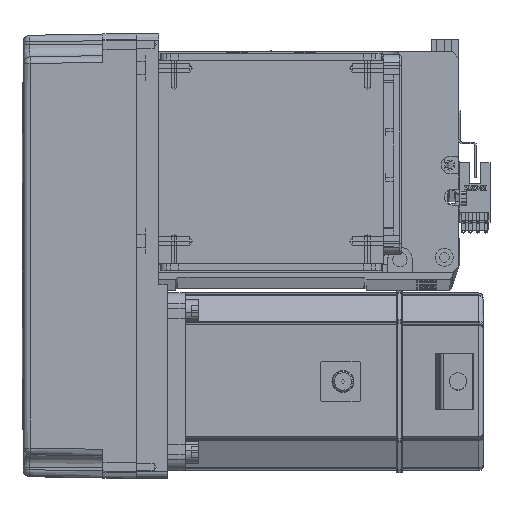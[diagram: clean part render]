
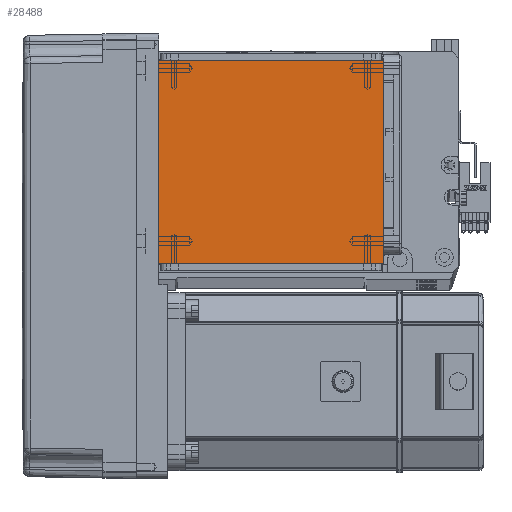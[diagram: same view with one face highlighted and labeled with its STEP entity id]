
A CAD part, top view. The second image highlights one B-rep face of the part: STEP entity #28488.
In plain terms, the highlighted planar face has unit normal (0, 0, 1).
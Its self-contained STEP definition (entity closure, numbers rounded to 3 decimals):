
#3096 = AXIS2_PLACEMENT_3D ( 'NONE', #4568, #64496, #45019 ) ;
#4309 = EDGE_LOOP ( 'NONE', ( #44390, #15728, #56952, #21111 ) ) ;
#4568 = CARTESIAN_POINT ( 'NONE',  ( 0., 0., 115. ) ) ;
#7316 = VECTOR ( 'NONE', #64485, 1000. ) ;
#8362 = CARTESIAN_POINT ( 'NONE',  ( -70.004, 111.5, 115. ) ) ;
#9211 = EDGE_CURVE ( 'NONE', #10909, #45519, #46246, .T. ) ;
#10909 = VERTEX_POINT ( 'NONE', #21856 ) ;
#14951 = LINE ( 'NONE', #46375, #49655 ) ;
#15728 = ORIENTED_EDGE ( 'NONE', *, *, #28179, .T. ) ;
#19142 = LINE ( 'NONE', #29362, #7316 ) ;
#20138 = VERTEX_POINT ( 'NONE', #28544 ) ;
#21111 = ORIENTED_EDGE ( 'NONE', *, *, #56836, .T. ) ;
#21856 = CARTESIAN_POINT ( 'NONE',  ( -50.5, 111.5, 115. ) ) ;
#22572 = CARTESIAN_POINT ( 'NONE',  ( 50.5, 122., 115. ) ) ;
#24212 = VERTEX_POINT ( 'NONE', #34240 ) ;
#27913 = DIRECTION ( 'NONE',  ( 1., 0., 0. ) ) ;
#28179 = EDGE_CURVE ( 'NONE', #10909, #24212, #14951, .T. ) ;
#28488 = ADVANCED_FACE ( 'NONE', ( #40939 ), #65147, .T. ) ;
#28544 = CARTESIAN_POINT ( 'NONE',  ( 50.5, 20., 115. ) ) ;
#29362 = CARTESIAN_POINT ( 'NONE',  ( -70.004, 20., 115. ) ) ;
#32910 = DIRECTION ( 'NONE',  ( 0., 1., 0. ) ) ;
#34240 = CARTESIAN_POINT ( 'NONE',  ( -50.5, 20., 115. ) ) ;
#36013 = DIRECTION ( 'NONE',  ( 0., -1., 0. ) ) ;
#38052 = EDGE_CURVE ( 'NONE', #20138, #24212, #19142, .T. ) ;
#40939 = FACE_OUTER_BOUND ( 'NONE', #4309, .T. ) ;
#44390 = ORIENTED_EDGE ( 'NONE', *, *, #9211, .F. ) ;
#45019 = DIRECTION ( 'NONE',  ( 1., 0., 0. ) ) ;
#45429 = VECTOR ( 'NONE', #32910, 1000. ) ;
#45519 = VERTEX_POINT ( 'NONE', #45812 ) ;
#45812 = CARTESIAN_POINT ( 'NONE',  ( 50.5, 111.5, 115. ) ) ;
#46246 = LINE ( 'NONE', #8362, #59422 ) ;
#46375 = CARTESIAN_POINT ( 'NONE',  ( -50.5, 122., 115. ) ) ;
#49655 = VECTOR ( 'NONE', #36013, 1000. ) ;
#50157 = LINE ( 'NONE', #22572, #45429 ) ;
#56836 = EDGE_CURVE ( 'NONE', #20138, #45519, #50157, .T. ) ;
#56952 = ORIENTED_EDGE ( 'NONE', *, *, #38052, .F. ) ;
#59422 = VECTOR ( 'NONE', #27913, 1000. ) ;
#64485 = DIRECTION ( 'NONE',  ( -1., 0., 0. ) ) ;
#64496 = DIRECTION ( 'NONE',  ( 0., 0., 1. ) ) ;
#65147 = PLANE ( 'NONE',  #3096 ) ;
